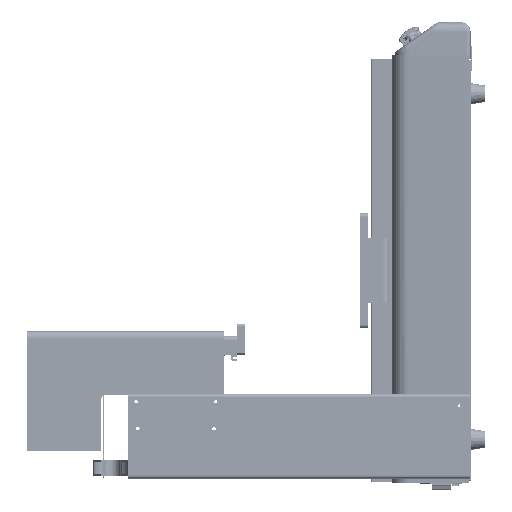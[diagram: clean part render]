
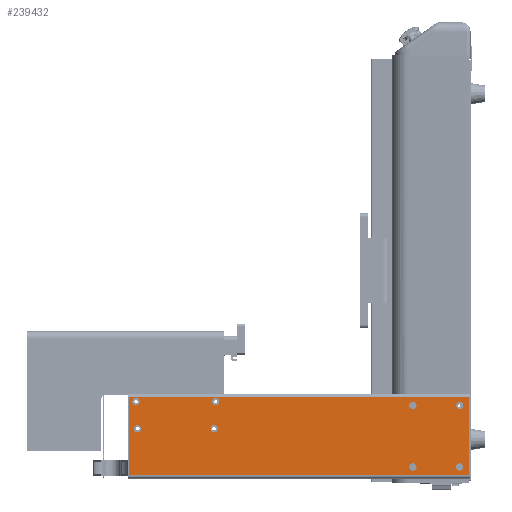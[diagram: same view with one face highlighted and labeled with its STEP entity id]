
A CAD part, left-side view. The second image highlights one B-rep face of the part: STEP entity #239432.
In plain terms, the highlighted planar face has unit normal (-1, 0, 0).
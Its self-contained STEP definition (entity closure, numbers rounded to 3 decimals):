
#24304=FACE_BOUND('',#47007,.T.);
#24305=FACE_BOUND('',#47008,.T.);
#24306=FACE_BOUND('',#47009,.T.);
#24307=FACE_BOUND('',#47010,.T.);
#24308=FACE_BOUND('',#47011,.T.);
#24309=FACE_BOUND('',#47012,.T.);
#24310=FACE_BOUND('',#47013,.T.);
#24311=FACE_BOUND('',#47014,.T.);
#32171=FACE_OUTER_BOUND('',#47006,.T.);
#47006=EDGE_LOOP('',(#194574,#194575,#194576,#194577));
#47007=EDGE_LOOP('',(#194578));
#47008=EDGE_LOOP('',(#194579));
#47009=EDGE_LOOP('',(#194580));
#47010=EDGE_LOOP('',(#194581));
#47011=EDGE_LOOP('',(#194582));
#47012=EDGE_LOOP('',(#194583));
#47013=EDGE_LOOP('',(#194584));
#47014=EDGE_LOOP('',(#194585));
#56362=CIRCLE('',#253846,4.75);
#56363=CIRCLE('',#253847,4.75);
#56364=CIRCLE('',#253848,4.75);
#56365=CIRCLE('',#253849,4.75);
#56366=CIRCLE('',#253850,4.75);
#56367=CIRCLE('',#253851,4.75);
#56368=CIRCLE('',#253852,4.75);
#56369=CIRCLE('',#253853,4.75);
#69069=LINE('',#367465,#91570);
#69119=LINE('',#367632,#91620);
#69120=LINE('',#367634,#91621);
#69121=LINE('',#367635,#91622);
#91570=VECTOR('',#287196,102.);
#91620=VECTOR('',#287316,443.);
#91621=VECTOR('',#287317,102.);
#91622=VECTOR('',#287318,443.);
#114351=VERTEX_POINT('',#367463);
#114352=VERTEX_POINT('',#367464);
#114434=VERTEX_POINT('',#367631);
#114435=VERTEX_POINT('',#367633);
#114436=VERTEX_POINT('',#367636);
#114437=VERTEX_POINT('',#367638);
#114438=VERTEX_POINT('',#367640);
#114439=VERTEX_POINT('',#367642);
#114440=VERTEX_POINT('',#367644);
#114441=VERTEX_POINT('',#367646);
#114442=VERTEX_POINT('',#367648);
#114443=VERTEX_POINT('',#367650);
#142806=EDGE_CURVE('',#114351,#114352,#69069,.T.);
#142890=EDGE_CURVE('',#114434,#114351,#69119,.T.);
#142891=EDGE_CURVE('',#114434,#114435,#69120,.T.);
#142892=EDGE_CURVE('',#114352,#114435,#69121,.T.);
#142893=EDGE_CURVE('',#114436,#114436,#56362,.T.);
#142894=EDGE_CURVE('',#114437,#114437,#56363,.T.);
#142895=EDGE_CURVE('',#114438,#114438,#56364,.T.);
#142896=EDGE_CURVE('',#114439,#114439,#56365,.T.);
#142897=EDGE_CURVE('',#114440,#114440,#56366,.T.);
#142898=EDGE_CURVE('',#114441,#114441,#56367,.T.);
#142899=EDGE_CURVE('',#114442,#114442,#56368,.T.);
#142900=EDGE_CURVE('',#114443,#114443,#56369,.T.);
#194574=ORIENTED_EDGE('',*,*,#142806,.F.);
#194575=ORIENTED_EDGE('',*,*,#142890,.F.);
#194576=ORIENTED_EDGE('',*,*,#142891,.T.);
#194577=ORIENTED_EDGE('',*,*,#142892,.F.);
#194578=ORIENTED_EDGE('',*,*,#142893,.T.);
#194579=ORIENTED_EDGE('',*,*,#142894,.T.);
#194580=ORIENTED_EDGE('',*,*,#142895,.T.);
#194581=ORIENTED_EDGE('',*,*,#142896,.T.);
#194582=ORIENTED_EDGE('',*,*,#142897,.T.);
#194583=ORIENTED_EDGE('',*,*,#142898,.T.);
#194584=ORIENTED_EDGE('',*,*,#142899,.T.);
#194585=ORIENTED_EDGE('',*,*,#142900,.T.);
#229189=PLANE('',#253845);
#239432=ADVANCED_FACE('',(#32171,#24304,#24305,#24306,#24307,#24308,#24309,
#24310,#24311),#229189,.F.);
#253845=AXIS2_PLACEMENT_3D('',#367630,#287314,#287315);
#253846=AXIS2_PLACEMENT_3D('',#367637,#287319,#287320);
#253847=AXIS2_PLACEMENT_3D('',#367639,#287321,#287322);
#253848=AXIS2_PLACEMENT_3D('',#367641,#287323,#287324);
#253849=AXIS2_PLACEMENT_3D('',#367643,#287325,#287326);
#253850=AXIS2_PLACEMENT_3D('',#367645,#287327,#287328);
#253851=AXIS2_PLACEMENT_3D('',#367647,#287329,#287330);
#253852=AXIS2_PLACEMENT_3D('',#367649,#287331,#287332);
#253853=AXIS2_PLACEMENT_3D('',#367651,#287333,#287334);
#287196=DIRECTION('',(0.,0.,-1.));
#287314=DIRECTION('center_axis',(1.,0.,0.));
#287315=DIRECTION('ref_axis',(0.,0.,-1.));
#287316=DIRECTION('',(0.,-1.,0.));
#287317=DIRECTION('',(0.,0.,-1.));
#287318=DIRECTION('',(0.,1.,0.));
#287319=DIRECTION('center_axis',(1.,0.,0.));
#287320=DIRECTION('ref_axis',(0.,0.,-1.));
#287321=DIRECTION('center_axis',(1.,0.,0.));
#287322=DIRECTION('ref_axis',(0.,0.,-1.));
#287323=DIRECTION('center_axis',(1.,0.,0.));
#287324=DIRECTION('ref_axis',(0.,0.,-1.));
#287325=DIRECTION('center_axis',(1.,0.,0.));
#287326=DIRECTION('ref_axis',(0.,0.,-1.));
#287327=DIRECTION('center_axis',(1.,0.,0.));
#287328=DIRECTION('ref_axis',(0.,0.,-1.));
#287329=DIRECTION('center_axis',(1.,0.,0.));
#287330=DIRECTION('ref_axis',(0.,0.,-1.));
#287331=DIRECTION('center_axis',(1.,0.,0.));
#287332=DIRECTION('ref_axis',(0.,0.,-1.));
#287333=DIRECTION('center_axis',(1.,0.,0.));
#287334=DIRECTION('ref_axis',(0.,0.,-1.));
#367463=CARTESIAN_POINT('',(-291.217,-55.98,110.));
#367464=CARTESIAN_POINT('',(-291.217,-55.98,8.));
#367465=CARTESIAN_POINT('',(-291.217,-55.98,110.));
#367630=CARTESIAN_POINT('Origin',(-291.217,165.52,59.));
#367631=CARTESIAN_POINT('',(-291.217,387.02,110.));
#367632=CARTESIAN_POINT('',(-291.217,387.02,110.));
#367633=CARTESIAN_POINT('',(-291.217,387.02,8.));
#367634=CARTESIAN_POINT('',(-291.217,387.02,110.));
#367635=CARTESIAN_POINT('',(-291.217,-55.98,8.));
#367636=CARTESIAN_POINT('',(-291.217,275.52,73.75));
#367637=CARTESIAN_POINT('Origin',(-291.217,275.52,69.));
#367638=CARTESIAN_POINT('',(-291.217,273.52,108.75));
#367639=CARTESIAN_POINT('Origin',(-291.217,273.52,104.));
#367640=CARTESIAN_POINT('',(-291.217,377.52,108.75));
#367641=CARTESIAN_POINT('Origin',(-291.217,377.52,104.));
#367642=CARTESIAN_POINT('',(-291.217,375.52,73.75));
#367643=CARTESIAN_POINT('Origin',(-291.217,375.52,69.));
#367644=CARTESIAN_POINT('',(-291.217,-43.98,23.75));
#367645=CARTESIAN_POINT('Origin',(-291.217,-43.98,19.));
#367646=CARTESIAN_POINT('',(-291.217,17.02,23.75));
#367647=CARTESIAN_POINT('Origin',(-291.217,17.02,19.));
#367648=CARTESIAN_POINT('',(-291.217,-43.98,103.75));
#367649=CARTESIAN_POINT('Origin',(-291.217,-43.98,99.));
#367650=CARTESIAN_POINT('',(-291.217,17.02,103.75));
#367651=CARTESIAN_POINT('Origin',(-291.217,17.02,99.));
